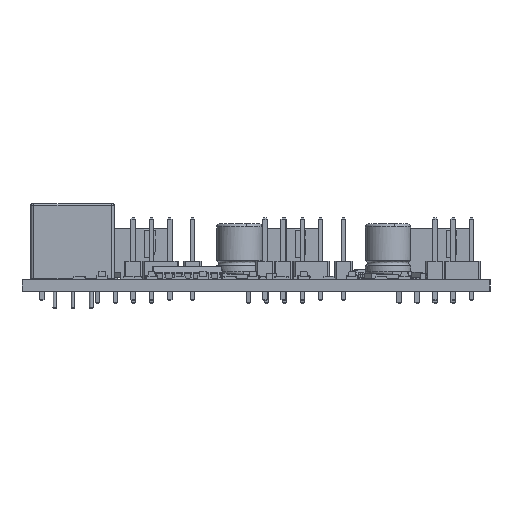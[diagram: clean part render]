
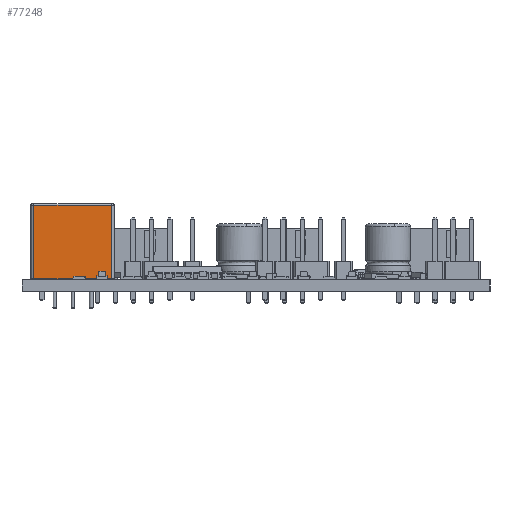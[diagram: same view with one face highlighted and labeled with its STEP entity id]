
A CAD part, left-side view. The second image highlights one B-rep face of the part: STEP entity #77248.
In plain terms, the highlighted planar face has unit normal (-1, 0, 0) as drawn and (0, -1, 0) by its records, which use the part's own axes.
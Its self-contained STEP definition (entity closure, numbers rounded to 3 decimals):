
#76654 = PLANE('',#76655);
#76655 = AXIS2_PLACEMENT_3D('',#76656,#76657,#76658);
#76656 = CARTESIAN_POINT('',(2.49,2.25,0.1));
#76657 = DIRECTION('',(0.,0.,-1.));
#76658 = DIRECTION('',(-1.,0.,0.));
#76731 = VERTEX_POINT('',#76732);
#76732 = CARTESIAN_POINT('',(7.865,-2.,0.1));
#76751 = CYLINDRICAL_SURFACE('',#76752,0.425);
#76752 = AXIS2_PLACEMENT_3D('',#76753,#76754,#76755);
#76753 = CARTESIAN_POINT('',(7.865,-1.575,0.1));
#76754 = DIRECTION('',(0.,0.,1.));
#76755 = DIRECTION('',(0.,-1.,0.));
#76763 = EDGE_CURVE('',#76731,#76764,#76766,.T.);
#76764 = VERTEX_POINT('',#76765);
#76765 = CARTESIAN_POINT('',(-2.885,-2.,0.1));
#76766 = SURFACE_CURVE('',#76767,(#76771,#76778),.PCURVE_S1.);
#76767 = LINE('',#76768,#76769);
#76768 = CARTESIAN_POINT('',(8.29,-2.,0.1));
#76769 = VECTOR('',#76770,1.);
#76770 = DIRECTION('',(-1.,0.,0.));
#76771 = PCURVE('',#76654,#76772);
#76772 = DEFINITIONAL_REPRESENTATION('',(#76773),#76777);
#76773 = LINE('',#76774,#76775);
#76774 = CARTESIAN_POINT('',(-5.8,-4.25));
#76775 = VECTOR('',#76776,1.);
#76776 = DIRECTION('',(1.,0.));
#76777 = ( GEOMETRIC_REPRESENTATION_CONTEXT(2) 
PARAMETRIC_REPRESENTATION_CONTEXT() REPRESENTATION_CONTEXT('2D SPACE',''
  ) );
#76778 = PCURVE('',#76779,#76784);
#76779 = PLANE('',#76780);
#76780 = AXIS2_PLACEMENT_3D('',#76781,#76782,#76783);
#76781 = CARTESIAN_POINT('',(8.29,-2.,0.1));
#76782 = DIRECTION('',(0.,-1.,0.));
#76783 = DIRECTION('',(-1.,0.,0.));
#76784 = DEFINITIONAL_REPRESENTATION('',(#76785),#76789);
#76785 = LINE('',#76786,#76787);
#76786 = CARTESIAN_POINT('',(0.,0.));
#76787 = VECTOR('',#76788,1.);
#76788 = DIRECTION('',(1.,0.));
#76789 = ( GEOMETRIC_REPRESENTATION_CONTEXT(2) 
PARAMETRIC_REPRESENTATION_CONTEXT() REPRESENTATION_CONTEXT('2D SPACE',''
  ) );
#76808 = CYLINDRICAL_SURFACE('',#76809,0.425);
#76809 = AXIS2_PLACEMENT_3D('',#76810,#76811,#76812);
#76810 = CARTESIAN_POINT('',(-2.885,-1.575,0.1));
#76811 = DIRECTION('',(0.,0.,1.));
#76812 = DIRECTION('',(0.,-1.,0.));
#77143 = EDGE_CURVE('',#76731,#77144,#77146,.T.);
#77144 = VERTEX_POINT('',#77145);
#77145 = CARTESIAN_POINT('',(7.865,-2.,10.288));
#77146 = SURFACE_CURVE('',#77147,(#77151,#77158),.PCURVE_S1.);
#77147 = LINE('',#77148,#77149);
#77148 = CARTESIAN_POINT('',(7.865,-2.,0.1));
#77149 = VECTOR('',#77150,1.);
#77150 = DIRECTION('',(0.,0.,1.));
#77151 = PCURVE('',#76751,#77152);
#77152 = DEFINITIONAL_REPRESENTATION('',(#77153),#77157);
#77153 = LINE('',#77154,#77155);
#77154 = CARTESIAN_POINT('',(0.,0.));
#77155 = VECTOR('',#77156,1.);
#77156 = DIRECTION('',(0.,1.));
#77157 = ( GEOMETRIC_REPRESENTATION_CONTEXT(2) 
PARAMETRIC_REPRESENTATION_CONTEXT() REPRESENTATION_CONTEXT('2D SPACE',''
  ) );
#77158 = PCURVE('',#76779,#77159);
#77159 = DEFINITIONAL_REPRESENTATION('',(#77160),#77164);
#77160 = LINE('',#77161,#77162);
#77161 = CARTESIAN_POINT('',(0.425,0.));
#77162 = VECTOR('',#77163,1.);
#77163 = DIRECTION('',(0.,-1.));
#77164 = ( GEOMETRIC_REPRESENTATION_CONTEXT(2) 
PARAMETRIC_REPRESENTATION_CONTEXT() REPRESENTATION_CONTEXT('2D SPACE',''
  ) );
#77248 = ADVANCED_FACE('',(#77249),#76779,.T.);
#77249 = FACE_BOUND('',#77250,.T.);
#77250 = EDGE_LOOP('',(#77251,#77252,#77280,#77301));
#77251 = ORIENTED_EDGE('',*,*,#77143,.T.);
#77252 = ORIENTED_EDGE('',*,*,#77253,.T.);
#77253 = EDGE_CURVE('',#77144,#77254,#77256,.T.);
#77254 = VERTEX_POINT('',#77255);
#77255 = CARTESIAN_POINT('',(-2.885,-2.,10.288));
#77256 = SURFACE_CURVE('',#77257,(#77261,#77268),.PCURVE_S1.);
#77257 = LINE('',#77258,#77259);
#77258 = CARTESIAN_POINT('',(7.865,-2.,10.288));
#77259 = VECTOR('',#77260,1.);
#77260 = DIRECTION('',(-1.,0.,0.));
#77261 = PCURVE('',#76779,#77262);
#77262 = DEFINITIONAL_REPRESENTATION('',(#77263),#77267);
#77263 = LINE('',#77264,#77265);
#77264 = CARTESIAN_POINT('',(0.425,-10.188));
#77265 = VECTOR('',#77266,1.);
#77266 = DIRECTION('',(1.,0.));
#77267 = ( GEOMETRIC_REPRESENTATION_CONTEXT(2) 
PARAMETRIC_REPRESENTATION_CONTEXT() REPRESENTATION_CONTEXT('2D SPACE',''
  ) );
#77268 = PCURVE('',#77269,#77274);
#77269 = CYLINDRICAL_SURFACE('',#77270,0.213);
#77270 = AXIS2_PLACEMENT_3D('',#77271,#77272,#77273);
#77271 = CARTESIAN_POINT('',(7.865,-1.788,10.288));
#77272 = DIRECTION('',(-1.,0.,0.));
#77273 = DIRECTION('',(0.,-1.,0.));
#77274 = DEFINITIONAL_REPRESENTATION('',(#77275),#77279);
#77275 = LINE('',#77276,#77277);
#77276 = CARTESIAN_POINT('',(0.,0.));
#77277 = VECTOR('',#77278,1.);
#77278 = DIRECTION('',(0.,1.));
#77279 = ( GEOMETRIC_REPRESENTATION_CONTEXT(2) 
PARAMETRIC_REPRESENTATION_CONTEXT() REPRESENTATION_CONTEXT('2D SPACE',''
  ) );
#77280 = ORIENTED_EDGE('',*,*,#77281,.F.);
#77281 = EDGE_CURVE('',#76764,#77254,#77282,.T.);
#77282 = SURFACE_CURVE('',#77283,(#77287,#77294),.PCURVE_S1.);
#77283 = LINE('',#77284,#77285);
#77284 = CARTESIAN_POINT('',(-2.885,-2.,0.1));
#77285 = VECTOR('',#77286,1.);
#77286 = DIRECTION('',(0.,0.,1.));
#77287 = PCURVE('',#76779,#77288);
#77288 = DEFINITIONAL_REPRESENTATION('',(#77289),#77293);
#77289 = LINE('',#77290,#77291);
#77290 = CARTESIAN_POINT('',(11.175,0.));
#77291 = VECTOR('',#77292,1.);
#77292 = DIRECTION('',(0.,-1.));
#77293 = ( GEOMETRIC_REPRESENTATION_CONTEXT(2) 
PARAMETRIC_REPRESENTATION_CONTEXT() REPRESENTATION_CONTEXT('2D SPACE',''
  ) );
#77294 = PCURVE('',#76808,#77295);
#77295 = DEFINITIONAL_REPRESENTATION('',(#77296),#77300);
#77296 = LINE('',#77297,#77298);
#77297 = CARTESIAN_POINT('',(6.283,0.));
#77298 = VECTOR('',#77299,1.);
#77299 = DIRECTION('',(0.,1.));
#77300 = ( GEOMETRIC_REPRESENTATION_CONTEXT(2) 
PARAMETRIC_REPRESENTATION_CONTEXT() REPRESENTATION_CONTEXT('2D SPACE',''
  ) );
#77301 = ORIENTED_EDGE('',*,*,#76763,.F.);
